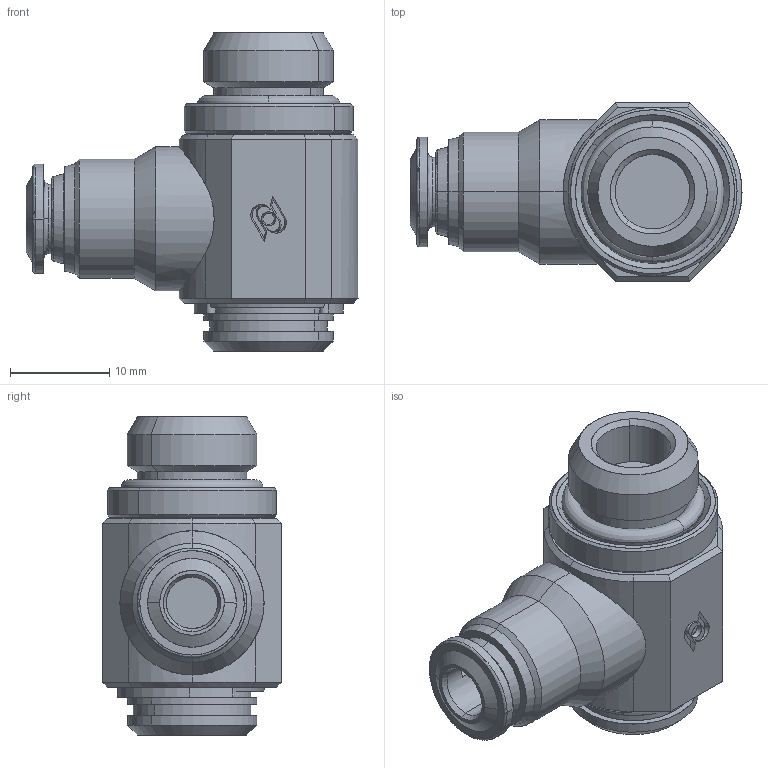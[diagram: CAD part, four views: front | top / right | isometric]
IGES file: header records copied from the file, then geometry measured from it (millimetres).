
Start section: SolidWorks IGES file using analytic representation for surfaces
Global section: file name: K:\Disegni Esecutivi\Serie 57000\ASSIEMI_57000\57550\ASSIEMI_PIENI_57550\5755000014.IGS; native system: SolidWorks 2008; preprocessor: SolidWorks 2008; author: cad02; date: 080218.172813; units: millimetre
Bounding box: 33.4 x 18 x 32 mm (x, y, z)
Surface area: 3650.4 mm2 (no closed solid volume)
Topology: 0 solids, 0 shells, 201 faces, 2400 edges, 2400 vertices
Faces by surface type: revolution 104, bspline 97
